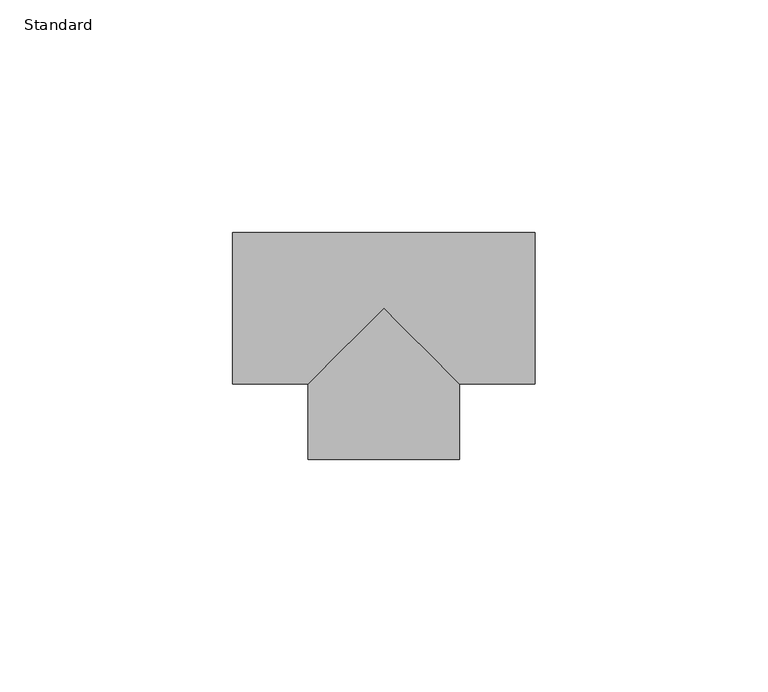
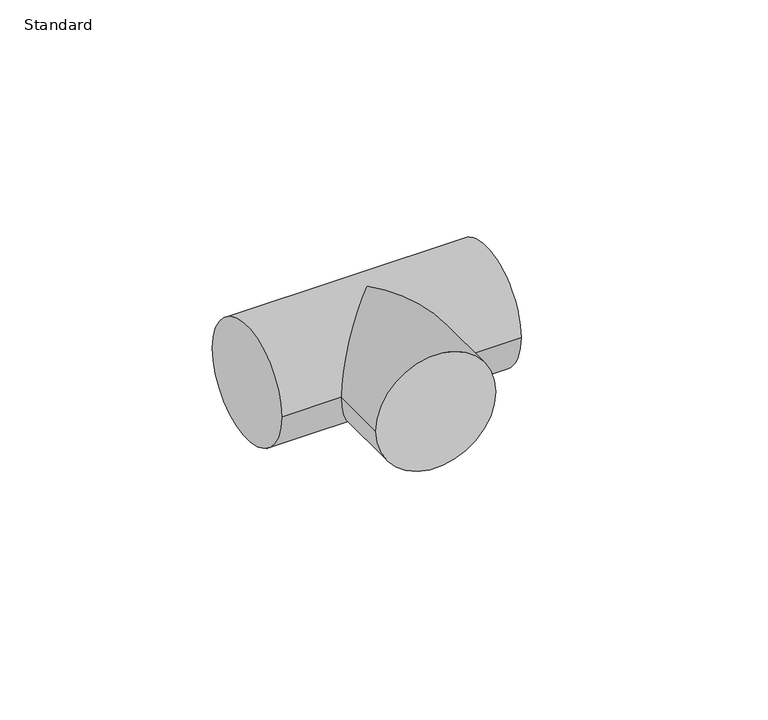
"""IFC4 building model written with IfcOpenShell, lengths in millimetres: pipe fitting geometry, M_Tee - CPVC - Sch 40 : Standard."""

from ifc_helpers import new_model, si_unit, frame, origin, place, context, project, spatial, circle_curve, ellipse_curve, source, transform, mapped, element, save
from ifc_brep_helpers import plane_surface, cylinder_surface, advanced_brep


def standard_636910a4(model_context):
    return source(origin(), model_context, "Body", "AdvancedBrep", [
        advanced_brep(
        [(-32.5374, -16.2687, 0.0), (-32.5374, 16.2687, 0.0), (32.5374, -16.2687, 0.0), (32.5374, 16.2687, 0.0), (-16.2687, -16.2687, 0.0), (0.0, 0.0, 16.2687), (16.2687, -16.2687, 0.0), (0.0, 0.0, -16.2687), (-16.2687, -32.5374, 0.0), (16.2687, -32.5374, 0.0)],
        [
            (0, 1, circle_curve(frame((-32.5374, 0.0, 0.0), z_axis=(-1.0, 0.0, 0.0), x_axis=(0.0, 1.0, 0.0)), 16.2687)),
            (1, 0, circle_curve(frame((-32.5374, 0.0, 0.0), z_axis=(-1.0, 0.0, 0.0), x_axis=(0.0, 1.0, 0.0)), 16.2687)),
            (2, 3, circle_curve(frame((32.5374, 0.0, 0.0), z_axis=(1.0, 0.0, 0.0), x_axis=(0.0, 1.0, 0.0)), 16.2687)),
            (3, 2, circle_curve(frame((32.5374, 0.0, 0.0), z_axis=(1.0, 0.0, 0.0), x_axis=(0.0, 1.0, 0.0)), 16.2687)),
            (0, 4),
            (4, 5, ellipse_curve(frame((0.0, 0.0, 0.0), z_axis=(-0.7071067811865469, 0.7071067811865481, 0.0), x_axis=(-0.707106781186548, -0.7071067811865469, 0.0)), 23.0074162, 16.2687)),
            (5, 6, ellipse_curve(frame((0.0, 0.0, 0.0), z_axis=(0.707106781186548, 0.7071067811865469, 0.0), x_axis=(-0.707106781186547, 0.707106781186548, 0.0)), 23.0074162, 16.2687)),
            (6, 2),
            (3, 1),
            (6, 7, ellipse_curve(frame((0.0, 0.0, 0.0), z_axis=(0.707106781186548, 0.7071067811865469, 0.0), x_axis=(-0.707106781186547, 0.707106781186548, 0.0)), 23.0074162, 16.2687)),
            (7, 4, ellipse_curve(frame((0.0, 0.0, 0.0), z_axis=(-0.7071067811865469, 0.7071067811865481, 0.0), x_axis=(-0.707106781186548, -0.7071067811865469, 0.0)), 23.0074162, 16.2687)),
            (8, 9, circle_curve(frame((0.0, -32.5374, 0.0), z_axis=(0.0, -1.0, 0.0), x_axis=(1.0, 0.0, 0.0)), 16.2687)),
            (9, 8, circle_curve(frame((0.0, -32.5374, 0.0), z_axis=(0.0, -1.0, 0.0), x_axis=(1.0, 0.0, 0.0)), 16.2687)),
            (9, 6),
            (4, 8),
        ],
        [
            plane_surface(frame((-32.5374, 0.0, 0.0), z_axis=(-1.0, 0.0, 0.0), x_axis=(0.0, 0.0, 1.0))),
            plane_surface(frame((32.5374, 0.0, 0.0), z_axis=(1.0, 0.0, 0.0), x_axis=(0.0, 0.0, 1.0))),
            cylinder_surface(frame((-32.5374, 0.0, 0.0), z_axis=(-1.0, 0.0, 0.0), x_axis=(0.0, 1.0, 0.0)), 16.2687),
            plane_surface(frame((0.0, -32.5374, 0.0), z_axis=(0.0, -1.0, 0.0), x_axis=(0.0, 0.0, 1.0))),
            cylinder_surface(frame((0.0, 0.0, 0.0), z_axis=(0.0, 1.0, 0.0), x_axis=(1.0, 0.0, 0.0)), 16.2687),
        ],
        [
            (0, [[1, 2]]),
            (1, [[3, 4]]),
            (2, [[-1, 5, 6, 7, 8, -4, 9]]),
            (2, [[-2, -9, -3, -8, 10, 11, -5]]),
            (3, [[12, 13]]),
            (4, [[-13, 14, -7, -6, 15]]),
            (4, [[-12, -15, -11, -10, -14]]),
        ],
    ),
    ])


if __name__ == "__main__":
    model = new_model("IFC4")
    model_context = context("Model", 3, world=origin())
    ifc_project = project(units=[si_unit("LENGTHUNIT", "METRE", prefix="MILLI")], contexts=[model_context])
    site = spatial("IfcSite", under=ifc_project)
    building = spatial("IfcBuilding", under=site)
    placement = place(None, origin())
    standard_shape = standard_636910a4(model_context)
    element("IfcPipeFitting", 1, ObjectType="M_Tee - CPVC - Sch 40 : Standard", at=placement, inside=building, context=model_context, shape_type="MappedRepresentation", body=[
        mapped(standard_shape, transform((0.0, 0.0, 0.0), x_axis=(1.0, 0.0, 0.0), y_axis=(0.0, 1.0, 0.0), z_axis=(0.0, 0.0, 1.0))),
    ])
    save(model, "model.ifc")
